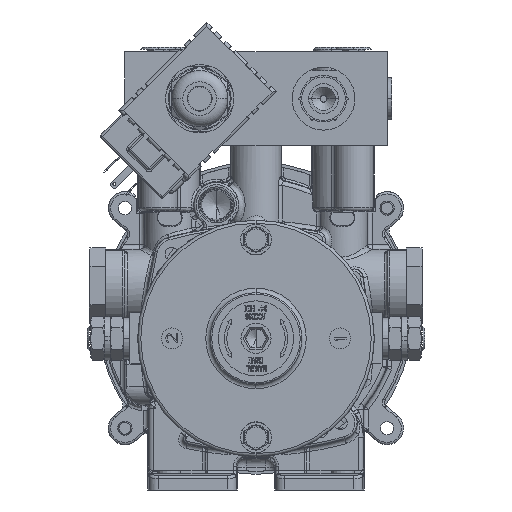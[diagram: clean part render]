
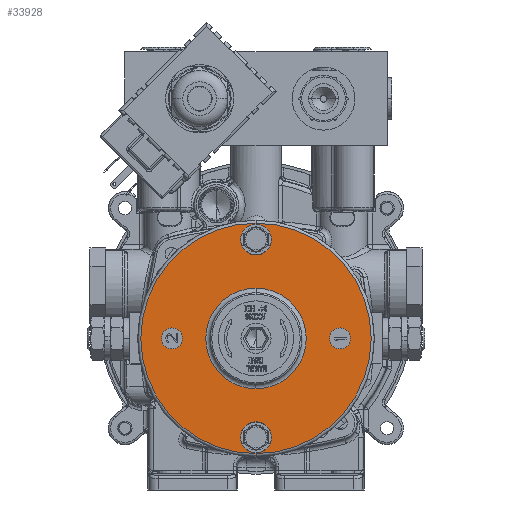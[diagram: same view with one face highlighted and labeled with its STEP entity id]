
A CAD part, front view. The second image highlights one B-rep face of the part: STEP entity #33928.
In plain terms, the highlighted planar face has unit normal (0, -1, 0).
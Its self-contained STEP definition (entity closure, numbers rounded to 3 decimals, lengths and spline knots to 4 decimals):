
#27436=CARTESIAN_POINT('',(0.,-4.883,1.049));
#27437=DIRECTION('',(0.,-1.,0.));
#27438=DIRECTION('',(0.,0.,1.));
#27439=AXIS2_PLACEMENT_3D('',#27436,#27437,#27438);
#27441=CARTESIAN_POINT('',(0.,-4.883,1.049));
#27442=DIRECTION('',(0.,-1.,0.));
#27443=DIRECTION('',(0.,0.,-1.));
#27444=AXIS2_PLACEMENT_3D('',#27441,#27442,#27443);
#27446=CARTESIAN_POINT('',(0.,-4.883,-1.589));
#27447=DIRECTION('',(0.,-1.,0.));
#27448=DIRECTION('',(0.,0.,1.));
#27449=AXIS2_PLACEMENT_3D('',#27446,#27447,#27448);
#27451=CARTESIAN_POINT('',(0.,-4.883,-1.589));
#27452=DIRECTION('',(0.,-1.,0.));
#27453=DIRECTION('',(0.,0.,-1.));
#27454=AXIS2_PLACEMENT_3D('',#27451,#27452,#27453);
#27456=CARTESIAN_POINT('',(-1.12,-4.883,-0.27));
#27457=DIRECTION('',(0.,-1.,0.));
#27458=DIRECTION('',(0.,0.,1.));
#27459=AXIS2_PLACEMENT_3D('',#27456,#27457,#27458);
#27461=CARTESIAN_POINT('',(-1.12,-4.883,-0.27));
#27462=DIRECTION('',(0.,-1.,0.));
#27463=DIRECTION('',(0.,0.,-1.));
#27464=AXIS2_PLACEMENT_3D('',#27461,#27462,#27463);
#27466=CARTESIAN_POINT('',(1.12,-4.883,-0.27));
#27467=DIRECTION('',(0.,-1.,0.));
#27468=DIRECTION('',(0.,0.,1.));
#27469=AXIS2_PLACEMENT_3D('',#27466,#27467,#27468);
#27471=CARTESIAN_POINT('',(1.12,-4.883,-0.27));
#27472=DIRECTION('',(0.,-1.,0.));
#27473=DIRECTION('',(0.,0.,-1.));
#27474=AXIS2_PLACEMENT_3D('',#27471,#27472,#27473);
#27718=CARTESIAN_POINT('',(0.,-4.883,-0.27));
#27719=DIRECTION('',(0.,-1.,0.));
#27720=DIRECTION('',(0.,0.,1.));
#27721=AXIS2_PLACEMENT_3D('',#27718,#27719,#27720);
#27733=CARTESIAN_POINT('',(0.,-4.883,-0.27));
#27734=DIRECTION('',(0.,-1.,0.));
#27735=DIRECTION('',(0.,0.,-1.));
#27736=AXIS2_PLACEMENT_3D('',#27733,#27734,#27735);
#27748=CARTESIAN_POINT('',(0.,-4.883,-0.27));
#27749=DIRECTION('',(0.,-1.,0.));
#27750=DIRECTION('',(0.,0.,1.));
#27751=AXIS2_PLACEMENT_3D('',#27748,#27749,#27750);
#27763=CARTESIAN_POINT('',(0.,-4.883,-0.27));
#27764=DIRECTION('',(0.,-1.,0.));
#27765=DIRECTION('',(0.,0.,-1.));
#27766=AXIS2_PLACEMENT_3D('',#27763,#27764,#27765);
#31734=CARTESIAN_POINT('',(0.,-4.883,1.265));
#31735=CARTESIAN_POINT('',(0.,-4.883,-1.805));
#31736=VERTEX_POINT('',#31734);
#31737=VERTEX_POINT('',#31735);
#31742=CARTESIAN_POINT('',(0.,-4.883,0.4));
#31743=CARTESIAN_POINT('',(0.,-4.883,-0.94));
#31744=VERTEX_POINT('',#31742);
#31745=VERTEX_POINT('',#31743);
#31869=CARTESIAN_POINT('',(-1.12,-4.883,-0.13));
#31870=CARTESIAN_POINT('',(-1.12,-4.883,-0.41));
#31871=VERTEX_POINT('',#31869);
#31872=VERTEX_POINT('',#31870);
#31873=CARTESIAN_POINT('',(1.12,-4.883,-0.13));
#31874=CARTESIAN_POINT('',(1.12,-4.883,-0.41));
#31875=VERTEX_POINT('',#31873);
#31876=VERTEX_POINT('',#31874);
#33777=CARTESIAN_POINT('',(0.,-4.883,1.214));
#33778=CARTESIAN_POINT('',(0.,-4.883,0.884));
#33779=VERTEX_POINT('',#33777);
#33780=VERTEX_POINT('',#33778);
#33781=CARTESIAN_POINT('',(0.,-4.883,-1.424));
#33782=CARTESIAN_POINT('',(0.,-4.883,-1.754));
#33783=VERTEX_POINT('',#33781);
#33784=VERTEX_POINT('',#33782);
#33887=CARTESIAN_POINT('',(0.,-4.883,-0.27));
#33888=DIRECTION('',(0.,-1.,0.));
#33889=DIRECTION('',(0.,0.,1.));
#33890=AXIS2_PLACEMENT_3D('',#33887,#33888,#33889);
#33891=PLANE('',#33890);
#33893=ORIENTED_EDGE('',*,*,#33892,.F.);
#33895=ORIENTED_EDGE('',*,*,#33894,.F.);
#33896=EDGE_LOOP('',(#33893,#33895));
#33897=FACE_OUTER_BOUND('',#33896,.F.);
#33899=ORIENTED_EDGE('',*,*,#33898,.T.);
#33901=ORIENTED_EDGE('',*,*,#33900,.T.);
#33902=EDGE_LOOP('',(#33899,#33901));
#33903=FACE_BOUND('',#33902,.F.);
#33905=ORIENTED_EDGE('',*,*,#33904,.T.);
#33907=ORIENTED_EDGE('',*,*,#33906,.T.);
#33908=EDGE_LOOP('',(#33905,#33907));
#33909=FACE_BOUND('',#33908,.F.);
#33911=ORIENTED_EDGE('',*,*,#33910,.T.);
#33913=ORIENTED_EDGE('',*,*,#33912,.T.);
#33914=EDGE_LOOP('',(#33911,#33913));
#33915=FACE_BOUND('',#33914,.F.);
#33917=ORIENTED_EDGE('',*,*,#33916,.T.);
#33919=ORIENTED_EDGE('',*,*,#33918,.T.);
#33920=EDGE_LOOP('',(#33917,#33919));
#33921=FACE_BOUND('',#33920,.F.);
#33923=ORIENTED_EDGE('',*,*,#33922,.T.);
#33925=ORIENTED_EDGE('',*,*,#33924,.T.);
#33926=EDGE_LOOP('',(#33923,#33925));
#33927=FACE_BOUND('',#33926,.F.);
#33928=ADVANCED_FACE('',(#33897,#33903,#33909,#33915,#33921,#33927),#33891,.T.);
#27440=CIRCLE('',#27439,0.165);
#27445=CIRCLE('',#27444,0.165);
#27450=CIRCLE('',#27449,0.165);
#27455=CIRCLE('',#27454,0.165);
#27460=CIRCLE('',#27459,0.14);
#27465=CIRCLE('',#27464,0.14);
#27470=CIRCLE('',#27469,0.14);
#27475=CIRCLE('',#27474,0.14);
#27722=CIRCLE('',#27721,1.535);
#27737=CIRCLE('',#27736,1.535);
#27752=CIRCLE('',#27751,0.67);
#27767=CIRCLE('',#27766,0.67);
#33892=EDGE_CURVE('',#31736,#31737,#27722,.T.);
#33894=EDGE_CURVE('',#31737,#31736,#27737,.T.);
#33898=EDGE_CURVE('',#31744,#31745,#27752,.T.);
#33900=EDGE_CURVE('',#31745,#31744,#27767,.T.);
#33904=EDGE_CURVE('',#33779,#33780,#27440,.T.);
#33906=EDGE_CURVE('',#33780,#33779,#27445,.T.);
#33910=EDGE_CURVE('',#33783,#33784,#27450,.T.);
#33912=EDGE_CURVE('',#33784,#33783,#27455,.T.);
#33916=EDGE_CURVE('',#31871,#31872,#27460,.T.);
#33918=EDGE_CURVE('',#31872,#31871,#27465,.T.);
#33922=EDGE_CURVE('',#31875,#31876,#27470,.T.);
#33924=EDGE_CURVE('',#31876,#31875,#27475,.T.);
